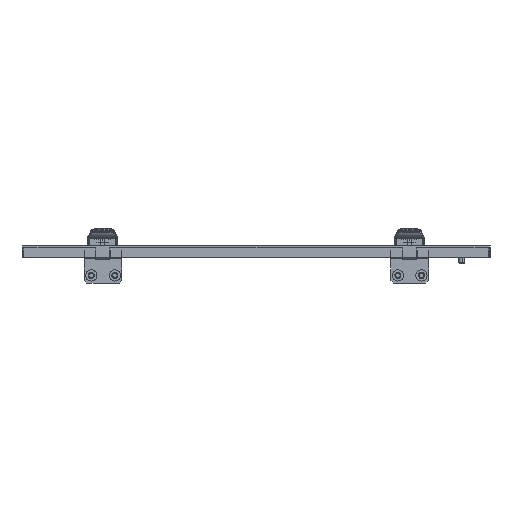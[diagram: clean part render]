
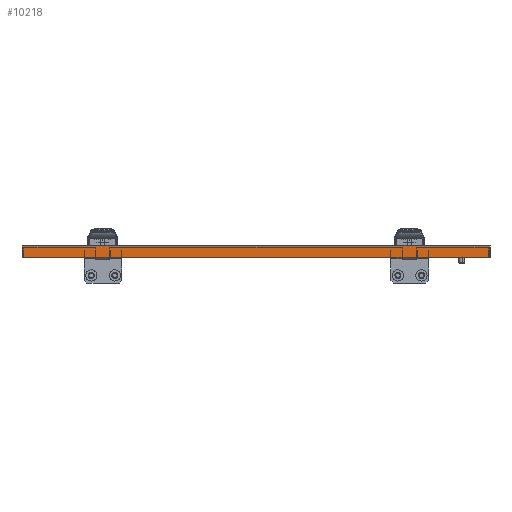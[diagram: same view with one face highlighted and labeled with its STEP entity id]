
A CAD part, left-side view. The second image highlights one B-rep face of the part: STEP entity #10218.
In plain terms, the highlighted planar face has unit normal (-1, 0, 0).
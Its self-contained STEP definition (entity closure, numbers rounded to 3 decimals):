
#1107 = ORIENTED_EDGE ( 'NONE', *, *, #6273, .T. ) ;
#2221 = EDGE_CURVE ( 'NONE', #4303, #11436, #10522, .T. ) ;
#3036 = DIRECTION ( 'NONE',  ( 0., 0., 1. ) ) ;
#4115 = CARTESIAN_POINT ( 'NONE',  ( -524.77, -178.047, 998.163 ) ) ;
#4303 = VERTEX_POINT ( 'NONE', #4115 ) ;
#4602 = CARTESIAN_POINT ( 'NONE',  ( -524.77, 253.278, 996.163 ) ) ;
#6080 = VECTOR ( 'NONE', #12189, 1000. ) ;
#6273 = EDGE_CURVE ( 'NONE', #11436, #18602, #11170, .T. ) ;
#6340 = DIRECTION ( 'NONE',  ( 0., 0., -1. ) ) ;
#7218 = CARTESIAN_POINT ( 'NONE',  ( -524.77, -178.047, 985.663 ) ) ;
#7693 = EDGE_LOOP ( 'NONE', ( #1107, #19953, #11238, #13385 ) ) ;
#9515 = DIRECTION ( 'NONE',  ( -1., 0., 0. ) ) ;
#9578 = VECTOR ( 'NONE', #6340, 1000. ) ;
#9689 = LINE ( 'NONE', #16173, #14471 ) ;
#10218 = ADVANCED_FACE ( 'NONE', ( #18924 ), #17354, .T. ) ;
#10522 = LINE ( 'NONE', #11889, #6080 ) ;
#10740 = VECTOR ( 'NONE', #17234, 1000. ) ;
#10857 = CARTESIAN_POINT ( 'NONE',  ( -524.77, 317.953, 1001.001 ) ) ;
#11170 = LINE ( 'NONE', #10857, #10740 ) ;
#11238 = ORIENTED_EDGE ( 'NONE', *, *, #19663, .F. ) ;
#11436 = VERTEX_POINT ( 'NONE', #13381 ) ;
#11889 = CARTESIAN_POINT ( 'NONE',  ( -524.77, 69.953, 998.163 ) ) ;
#12189 = DIRECTION ( 'NONE',  ( 0., 1., 0. ) ) ;
#12299 = LINE ( 'NONE', #14377, #9578 ) ;
#12993 = CARTESIAN_POINT ( 'NONE',  ( -524.77, 317.953, 985.663 ) ) ;
#13338 = VERTEX_POINT ( 'NONE', #7218 ) ;
#13381 = CARTESIAN_POINT ( 'NONE',  ( -524.77, 317.953, 998.163 ) ) ;
#13385 = ORIENTED_EDGE ( 'NONE', *, *, #2221, .T. ) ;
#14377 = CARTESIAN_POINT ( 'NONE',  ( -524.77, -178.047, 1001.001 ) ) ;
#14471 = VECTOR ( 'NONE', #15677, 1000. ) ;
#15677 = DIRECTION ( 'NONE',  ( 0., -1., 0. ) ) ;
#16173 = CARTESIAN_POINT ( 'NONE',  ( -524.77, 253.278, 985.663 ) ) ;
#16784 = EDGE_CURVE ( 'NONE', #18602, #13338, #9689, .T. ) ;
#17234 = DIRECTION ( 'NONE',  ( 0., 0., -1. ) ) ;
#17354 = PLANE ( 'NONE',  #18706 ) ;
#18602 = VERTEX_POINT ( 'NONE', #12993 ) ;
#18706 = AXIS2_PLACEMENT_3D ( 'NONE', #4602, #9515, #3036 ) ;
#18924 = FACE_OUTER_BOUND ( 'NONE', #7693, .T. ) ;
#19663 = EDGE_CURVE ( 'NONE', #4303, #13338, #12299, .T. ) ;
#19953 = ORIENTED_EDGE ( 'NONE', *, *, #16784, .T. ) ;
